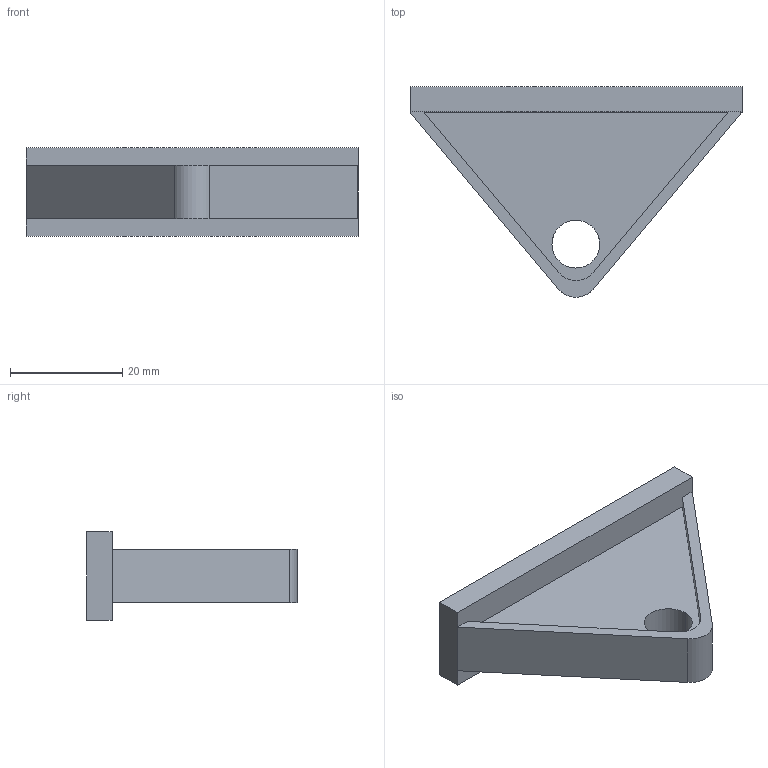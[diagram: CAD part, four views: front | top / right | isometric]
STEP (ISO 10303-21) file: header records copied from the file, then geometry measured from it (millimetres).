
FILE_DESCRIPTION (( 'STEP AP203' ), '1' );
FILE_NAME ('3003.STEP', '2016-04-25T09:05:10', ( 'RosInstal-MKM' ), ( '' ), 'SwSTEP 2.0', 'SolidWorks 2014', '' );
FILE_SCHEMA (( 'CONFIG_CONTROL_DESIGN' ));
Length unit declared in the file: millimetre
Products named in the file (1): 3003
Bounding box: 59.04 x 37.44 x 15.8 mm (x, y, z)
Volume: 10231.8 mm3; surface area: 5467.1 mm2
Topology: 1 solids, 1 shells, 21 faces, 55 edges, 36 vertices
Faces by surface type: plane 16, cylinder 5
Entity records: 724 total; most frequent: CARTESIAN_POINT 113, ORIENTED_EDGE 110, DIRECTION 109, EDGE_CURVE 55, VECTOR 45, LINE 45, VERTEX_POINT 36, AXIS2_PLACEMENT_3D 32
